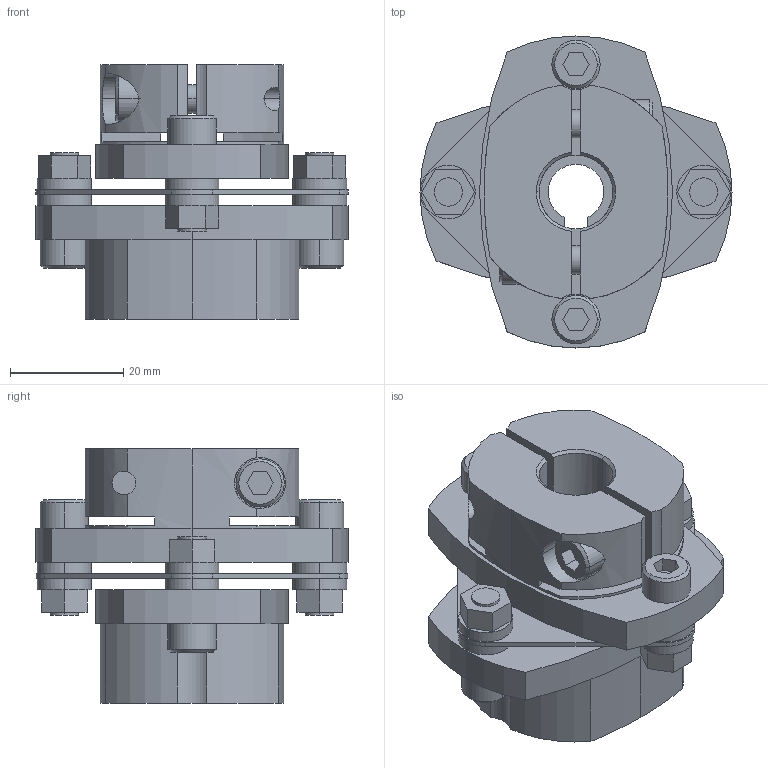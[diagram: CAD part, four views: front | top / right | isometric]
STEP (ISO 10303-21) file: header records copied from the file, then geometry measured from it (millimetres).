
FILE_DESCRIPTION((''),'2;1');
FILE_NAME('LCS-55M-11L亊13B.stp','2015-10-27T19:09:43',(''),(''),'AutoCAD STEP 2000i','AutoCAD 2000i',', , ');
FILE_SCHEMA(('CONFIG_CONTROL_DESIGN'));
Length unit declared in the file: millimetre
Products named in the file (6): LCS-55M-11L×10B; 忣兜1; LC55M-L011; LC55-B010-1; LC55-B010; LCS55-ITA
Assembly tree (6 placements, depth 2):
  LCS-55M-11L×10B
    忣兜1
    LC55M-L011  x2
    LC55-B010-1
    LC55-B010
    LCS55-ITA
Bounding box: 55 x 55 x 44.8 mm (x, y, z)
Volume: 45627.3 mm3; surface area: 19220.3 mm2
Topology: 1 solids, 1 shells, 240 faces, 608 edges, 400 vertices
Faces by surface type: plane 115, cylinder 104, cone 21
Entity records: 7727 total; most frequent: CARTESIAN_POINT 1547, DIRECTION 1320, ORIENTED_EDGE 1216, EDGE_CURVE 608, AXIS2_PLACEMENT_3D 487, VERTEX_POINT 400, VECTOR 346, LINE 346
